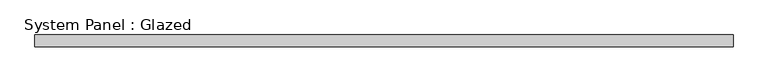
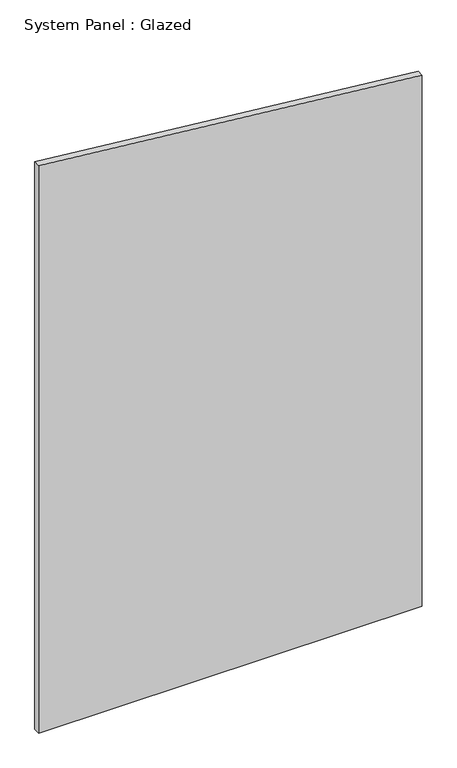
"""IFC4 building model written with IfcOpenShell, lengths in millimetres: plate geometry, System Panel : Glazed."""

import ifcopenshell
import ifcopenshell.guid

model = None  # the IFC model being written
_history = None  # IfcOwnerHistory: only IFC2X3 demands one
_inside = {}  # id of a spatial element -> (the spatial element, [elements in it])
_under = {}  # id of a project, library or spatial element -> (it, [spatial elements below it])
_declared = {}  # id of a project -> (the project, [libraries it declares])
_typed = {}  # id of a type object -> (the type object, [elements of that type])
_made_of = {}  # id of a material, layer set ... -> (it, [elements and type objects made of it])


def new_model(schema):
    """Start an empty IFC model of exactly this schema.

    Asked for "IFC4X3", IfcOpenShell would pick the latest addendum, in which some entities
    have other attributes; the version numbers below select the first issue.
    IFC2X3 requires an IfcOwnerHistory on every rooted entity: one is made here for all.
    """
    global model, _history
    if schema == "IFC4X3":
        model = ifcopenshell.file(schema_version=(4, 3, 0, 0))
    else:
        model = ifcopenshell.file(schema=schema)
    _inside.clear()
    _under.clear()
    _declared.clear()
    _typed.clear()
    _made_of.clear()
    _history = None
    if model.schema == "IFC2X3":
        org = make("IfcOrganization", Name="unknown")
        user = make(
            "IfcPersonAndOrganization",
            ThePerson=make("IfcPerson", FamilyName="unknown"),
            TheOrganization=org,
        )
        app = make(
            "IfcApplication",
            ApplicationDeveloper=org,
            Version="unknown",
            ApplicationFullName="unknown",
            ApplicationIdentifier="unknown",
        )
        _history = make(
            "IfcOwnerHistory",
            OwningUser=user,
            OwningApplication=app,
            ChangeAction="ADDED",
            CreationDate=0,
        )
    return model


def make(cls, **values):
    """One entity of the class cls with the attributes given. An attribute that is None is left unset."""
    return model.create_entity(
        cls, **{name: value for name, value in values.items() if value is not None}
    )


def rooted(cls, **values):
    """An entity with a GlobalId (a new one), such as an element, a storey or a relation."""
    return make(cls, GlobalId=ifcopenshell.guid.new(), OwnerHistory=_history, **values)


def si_unit(unit_type, name, prefix=None):
    """IfcSIUnit, for example si_unit("LENGTHUNIT", "METRE", prefix="MILLI")."""
    return make("IfcSIUnit", UnitType=unit_type, Prefix=prefix, Name=name)


def assignment(units):
    """IfcUnitAssignment: the units of a project."""
    return None if units is None else make("IfcUnitAssignment", Units=units)


def point(xyz):
    """IfcCartesianPoint."""
    return None if xyz is None else make("IfcCartesianPoint", Coordinates=xyz)


def direction(xyz):
    """IfcDirection."""
    return None if xyz is None else make("IfcDirection", DirectionRatios=xyz)


def frame(location, z_axis=None, x_axis=None):
    """IfcAxis2Placement3D, a coordinate frame: its origin and axes. An axis left out is left unset."""
    return make(
        "IfcAxis2Placement3D",
        Location=point(location),
        Axis=direction(z_axis),
        RefDirection=direction(x_axis),
    )


def origin():
    """The frame at (0, 0, 0) with its axes left unset."""
    return frame((0.0, 0.0, 0.0))


def place(relative_to, where):
    """IfcLocalPlacement: puts the frame where relative to a parent placement (None: the world)."""
    return make(
        "IfcLocalPlacement", PlacementRelTo=relative_to, RelativePlacement=where
    )


def context(
    kind, dimensions, precision=None, world=None, true_north=None, identifier=None
):
    """IfcGeometricRepresentationContext, for example the 3D "Model" context."""
    return make(
        "IfcGeometricRepresentationContext",
        ContextIdentifier=identifier,
        ContextType=kind,
        CoordinateSpaceDimension=dimensions,
        Precision=precision,
        WorldCoordinateSystem=world,
        TrueNorth=true_north,
    )


def project(units=None, contexts=None):
    """IfcProject with its units and contexts."""
    return rooted(
        "IfcProject",
        Name="project",
        RepresentationContexts=contexts,
        UnitsInContext=assignment(units),
    )


def spatial(cls, under=None, at=None, **own):
    """A site, building, storey or space (cls), placed at a placement, below another one or the project."""
    s = rooted(cls, ObjectPlacement=at, **own)
    if under is not None:
        _under.setdefault(under.id(), (under, []))[1].append(s)
    return s


def polyline(points):
    """IfcPolyline through the points."""
    return make("IfcPolyline", Points=[point(p) for p in points])


def outline(outer, holes=None, kind="AREA"):
    """IfcArbitraryClosedProfileDef: a profile drawn as a closed curve; with holes, ...WithVoids."""
    if holes is None:
        return make("IfcArbitraryClosedProfileDef", ProfileType=kind, OuterCurve=outer)
    return make(
        "IfcArbitraryProfileDefWithVoids",
        ProfileType=kind,
        OuterCurve=outer,
        InnerCurves=holes,
    )


def extrude(swept, where, along, depth):
    """IfcExtrudedAreaSolid: the profile swept, set in the frame where, extruded along a direction by depth."""
    return make(
        "IfcExtrudedAreaSolid",
        SweptArea=swept,
        Position=where,
        ExtrudedDirection=direction(along),
        Depth=depth,
    )


def shape(context_of_items, identifier, shape_type, items):
    """IfcShapeRepresentation: the items that make up one representation, for example the "Body"."""
    return make(
        "IfcShapeRepresentation",
        ContextOfItems=context_of_items,
        RepresentationIdentifier=identifier,
        RepresentationType=shape_type,
        Items=items,
    )


def source(mapping_origin, context_of_items, identifier, shape_type, items):
    """IfcRepresentationMap: a shape defined once, which mapped items show again and again."""
    return make(
        "IfcRepresentationMap",
        MappingOrigin=mapping_origin,
        MappedRepresentation=shape(context_of_items, identifier, shape_type, items),
    )


def transform(
    local_origin,
    x_axis=None,
    y_axis=None,
    z_axis=None,
    scale=None,
    scale2=None,
    scale3=None,
    uniform=True,
):
    """IfcCartesianTransformationOperator3D, or its non-uniform kind. x_axis, y_axis, z_axis: its Axis1, 2, 3."""
    if uniform:
        return make(
            "IfcCartesianTransformationOperator3D",
            Axis1=direction(x_axis),
            Axis2=direction(y_axis),
            LocalOrigin=point(local_origin),
            Scale=scale,
            Axis3=direction(z_axis),
        )
    return make(
        "IfcCartesianTransformationOperator3DnonUniform",
        Axis1=direction(x_axis),
        Axis2=direction(y_axis),
        LocalOrigin=point(local_origin),
        Scale=scale,
        Axis3=direction(z_axis),
        Scale2=scale2,
        Scale3=scale3,
    )


def mapped(mapping_source, mapping_target):
    """IfcMappedItem: shows the shape of a source again, moved by a transform."""
    return make(
        "IfcMappedItem", MappingSource=mapping_source, MappingTarget=mapping_target
    )


def made_of(thing, what):
    """Note that an element or type object is made of a material, layer set ...; save() writes the relation."""
    if what is not None:
        _made_of.setdefault(what.id(), (what, []))[1].append(thing)
    return thing


def element(
    cls,
    number,
    at=None,
    inside=None,
    cuts=None,
    type_object=None,
    material=None,
    context=None,
    identifier="Body",
    shape_type=None,
    held_by="IfcProductDefinitionShape",
    body=None,
    shapes=None,
    **own,
):
    """One element of the class cls, such as IfcWall. Its Tag is "e" and its number.

    at: its placement. inside: the storey or other place that contains it. cuts: it is an
    opening in that element (IfcRelVoidsElement). A single representation is given by context,
    identifier, shape_type and body (its items); several are given by shapes. held_by: the class
    of the entity that holds the representations. save() writes the other relations.
    """
    e = rooted(cls, Tag="e%d" % number, ObjectPlacement=at, **own)
    if body is not None:
        shapes = [shape(context, identifier, shape_type, body)]
    if shapes is not None:
        e.Representation = make(held_by, Representations=shapes)
    if inside is not None:
        _inside.setdefault(inside.id(), (inside, []))[1].append(e)
    if cuts is not None:
        rooted(
            "IfcRelVoidsElement", RelatingBuildingElement=cuts, RelatedOpeningElement=e
        )
    if type_object is not None:
        _typed.setdefault(type_object.id(), (type_object, []))[1].append(e)
    return made_of(e, material)


def aggregate(whole, parts):
    """IfcRelAggregates: a whole, such as a stair, and the parts it consists of."""
    return rooted("IfcRelAggregates", RelatingObject=whole, RelatedObjects=parts)


def save(model, path):
    """Write the relations noted so far, then the file.

    IfcRelAggregates (storeys below a building ...), IfcRelContainedInSpatialStructure (elements
    in a storey), IfcRelDefinesByType, IfcRelAssociatesMaterial and IfcRelDeclares: one each for
    every whole, place, type object, material and project.
    """
    for whole, parts in _under.values():
        aggregate(whole, parts)
    for where, things in _inside.values():
        rooted(
            "IfcRelContainedInSpatialStructure",
            RelatedElements=things,
            RelatingStructure=where,
        )
    for kind, things in _typed.values():
        rooted("IfcRelDefinesByType", RelatedObjects=things, RelatingType=kind)
    for what, things in _made_of.values():
        rooted("IfcRelAssociatesMaterial", RelatedObjects=things, RelatingMaterial=what)
    for by, libraries in _declared.values():
        rooted("IfcRelDeclares", RelatingContext=by, RelatedDefinitions=libraries)
    model.write(path)


def system_panel_glazed_dd10088e(model_context):
    return source(origin(), model_context, "Body", "SweptSolid", [
        extrude(outline(polyline([(0.0, -735.8695652), (0.0, 735.8695652), (2152.523259, 735.8695652), (2300.5062377, -735.8695652), (0.0, -735.8695652)])), frame((0.0, 24.5, 0.0), z_axis=(0.0, 1.0, 0.0), x_axis=(0.0, 0.0, 1.0)), (0.0, 0.0, 1.0), 25.0),
    ])


if __name__ == "__main__":
    model = new_model("IFC4")
    model_context = context("Model", 3, world=origin())
    ifc_project = project(units=[si_unit("LENGTHUNIT", "METRE", prefix="MILLI")], contexts=[model_context])
    site = spatial("IfcSite", under=ifc_project)
    building = spatial("IfcBuilding", under=site)
    placement = place(None, origin())
    system_panel_glazed_shape = system_panel_glazed_dd10088e(model_context)
    element("IfcPlate", 1, ObjectType="System Panel : Glazed", at=placement, inside=building, context=model_context, shape_type="MappedRepresentation", body=[
        mapped(system_panel_glazed_shape, transform((0.0, 0.0, 0.0), x_axis=(1.0, 0.0, 0.0), y_axis=(0.0, 1.0, 0.0), z_axis=(0.0, 0.0, 1.0))),
    ])
    save(model, "model.ifc")
